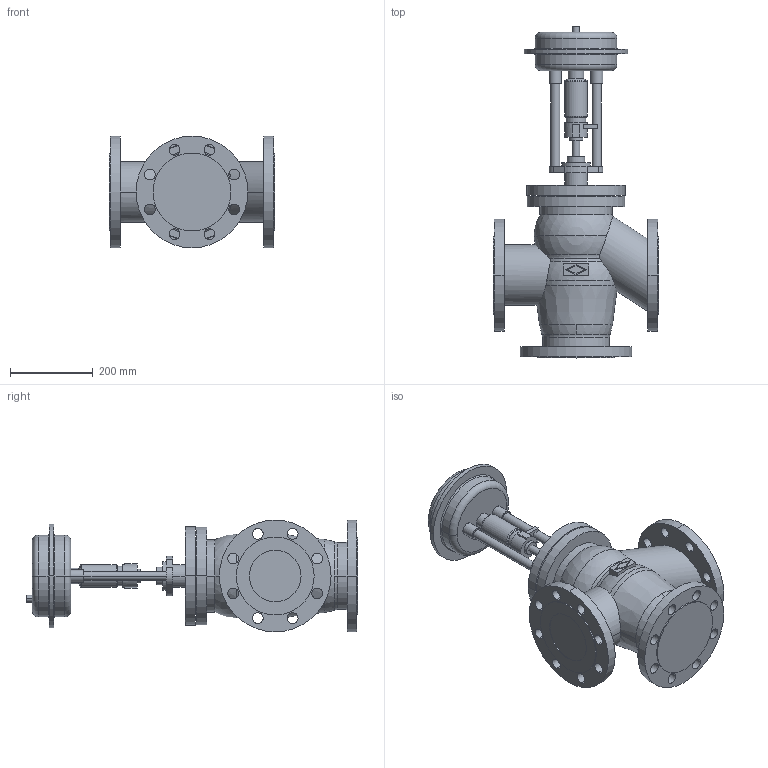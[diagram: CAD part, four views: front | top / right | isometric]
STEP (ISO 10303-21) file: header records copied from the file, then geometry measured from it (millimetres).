
FILE_DESCRIPTION(('OneSpaceDesigner STEP Export'),'2;1');
FILE_NAME('c000000412.stp','2006-09-13T12:57:36',(''),(''),'OneSpace Designer STEP processor for AP214 (Solid Model)','OneSpace Designer 13.20A 18-Aug-2005 (C) CoCreate Software GmbH','');
FILE_SCHEMA(('AUTOMOTIVE_DESIGN { 1 0 10303 214 1 1 1 1 }'));
Length unit declared in the file: millimetre
Products named in the file (2): 1; 2
Bounding box: 400 x 802 x 270 mm (x, y, z)
Volume: 22453444.5 mm3; surface area: 1021743.6 mm2
Topology: 2 solids, 2 shells, 227 faces, 567 edges, 366 vertices
Faces by surface type: cylinder 116, plane 73, torus 24, sphere 8, cone 6
Entity records: 6144 total; most frequent: CARTESIAN_POINT 1249, ORIENTED_EDGE 1118, DIRECTION 868, EDGE_CURVE 559, VERTEX_POINT 366, AXIS2_PLACEMENT_3D 326, EDGE_LOOP 305, FACE_OUTER_BOUND 227
